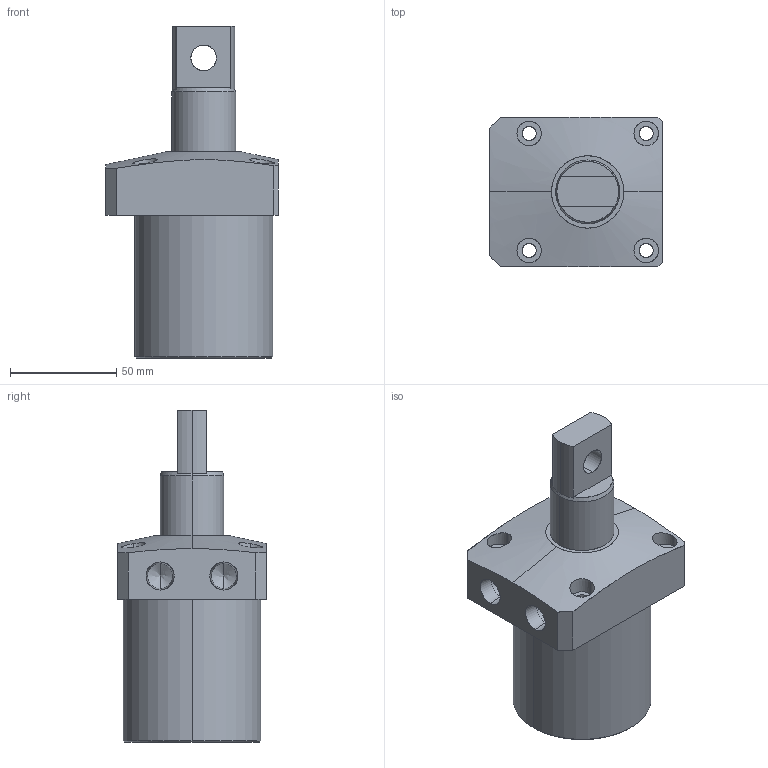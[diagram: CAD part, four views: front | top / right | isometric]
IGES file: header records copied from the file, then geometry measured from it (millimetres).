
Start section: SolidWorks IGES file using analytic representation for surfaces
Global section: file name: E:\ALL SSVT IGS MODEL\ALL-SWING-IGS\SWING.-65\SC02-651-RH-LH-TOP-PTYPE\SC02-651-RH-TOP-PTYPE.IGS; native system: SolidWorks 2019; preprocessor: SolidWorks 2019; author: SSVT; date: 210823.103314; units: millimetre
Bounding box: 81 x 70 x 156 mm (x, y, z)
Surface area: 54875.6 mm2 (no closed solid volume)
Topology: 0 solids, 0 shells, 73 faces, 1645 edges, 1641 vertices
Faces by surface type: revolution 49, bspline 24
